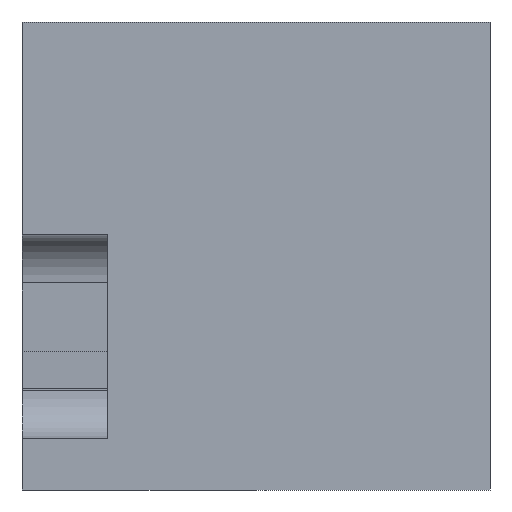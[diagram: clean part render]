
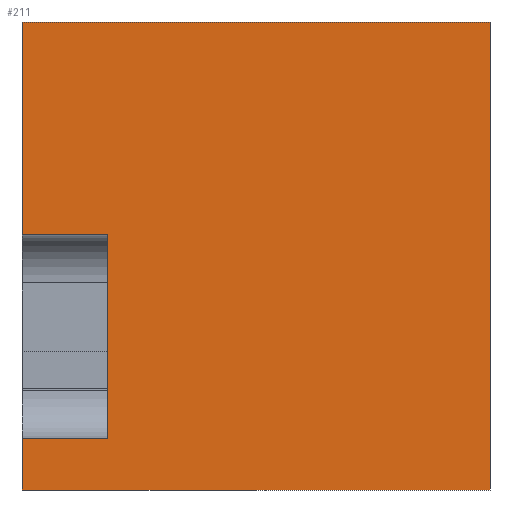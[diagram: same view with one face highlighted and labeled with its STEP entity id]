
A CAD part, left-side view. The second image highlights one B-rep face of the part: STEP entity #211.
In plain terms, the highlighted planar face has unit normal (-1, 0, 0).
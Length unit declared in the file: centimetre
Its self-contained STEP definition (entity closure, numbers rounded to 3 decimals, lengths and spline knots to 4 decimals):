
#6 = ORIENTED_EDGE ( 'NONE', *, *, #570, .F. ) ;
#7 = EDGE_CURVE ( 'NONE', #295, #682, #32, .T. ) ;
#21 = ORIENTED_EDGE ( 'NONE', *, *, #709, .F. ) ;
#32 = LINE ( 'NONE', #821, #585 ) ;
#46 = VECTOR ( 'NONE', #86, 100. ) ;
#68 = CARTESIAN_POINT ( 'NONE',  ( 0., 816.863, 544.9961 ) ) ;
#72 = LINE ( 'NONE', #322, #154 ) ;
#86 = DIRECTION ( 'NONE',  ( 0., -1., 0. ) ) ;
#95 = EDGE_LOOP ( 'NONE', ( #6, #428, #287, #348, #502, #21, #626, #361 ) ) ;
#98 = CARTESIAN_POINT ( 'NONE',  ( 0., 1000., 1000. ) ) ;
#101 = VERTEX_POINT ( 'NONE', #360 ) ;
#114 = DIRECTION ( 'NONE',  ( 0., 1., 0. ) ) ;
#142 = LINE ( 'NONE', #541, #499 ) ;
#154 = VECTOR ( 'NONE', #656, 100. ) ;
#156 = CARTESIAN_POINT ( 'NONE',  ( 0., 816.863, 1000. ) ) ;
#174 = VECTOR ( 'NONE', #282, 100. ) ;
#199 = CARTESIAN_POINT ( 'NONE',  ( 0., 1000., 1000. ) ) ;
#211 = ADVANCED_FACE ( 'NONE', ( #727 ), #780, .F. ) ;
#240 = LINE ( 'NONE', #702, #292 ) ;
#245 = AXIS2_PLACEMENT_3D ( 'NONE', #777, #377, #388 ) ;
#277 = VECTOR ( 'NONE', #426, 100. ) ;
#282 = DIRECTION ( 'NONE',  ( 0., 0., -1. ) ) ;
#287 = ORIENTED_EDGE ( 'NONE', *, *, #710, .T. ) ;
#288 = CARTESIAN_POINT ( 'NONE',  ( 0., 816.863, 110.1598 ) ) ;
#291 = VERTEX_POINT ( 'NONE', #288 ) ;
#292 = VECTOR ( 'NONE', #114, 100. ) ;
#295 = VERTEX_POINT ( 'NONE', #608 ) ;
#322 = CARTESIAN_POINT ( 'NONE',  ( 0., 0., 1000. ) ) ;
#324 = VERTEX_POINT ( 'NONE', #613 ) ;
#348 = ORIENTED_EDGE ( 'NONE', *, *, #714, .T. ) ;
#360 = CARTESIAN_POINT ( 'NONE',  ( 0., 1000., 1000. ) ) ;
#361 = ORIENTED_EDGE ( 'NONE', *, *, #7, .T. ) ;
#365 = EDGE_CURVE ( 'NONE', #291, #324, #240, .T. ) ;
#370 = CARTESIAN_POINT ( 'NONE',  ( 0., 1000., 0. ) ) ;
#377 = DIRECTION ( 'NONE',  ( 1., 0., 0. ) ) ;
#388 = DIRECTION ( 'NONE',  ( 0., 0., -1. ) ) ;
#426 = DIRECTION ( 'NONE',  ( 0., 0., 1. ) ) ;
#427 = LINE ( 'NONE', #199, #46 ) ;
#428 = ORIENTED_EDGE ( 'NONE', *, *, #365, .T. ) ;
#494 = CARTESIAN_POINT ( 'NONE',  ( 0., 1000., 1000. ) ) ;
#499 = VECTOR ( 'NONE', #813, 100. ) ;
#502 = ORIENTED_EDGE ( 'NONE', *, *, #542, .F. ) ;
#507 = VERTEX_POINT ( 'NONE', #781 ) ;
#541 = CARTESIAN_POINT ( 'NONE',  ( 0., 1000., 0. ) ) ;
#542 = EDGE_CURVE ( 'NONE', #634, #507, #72, .T. ) ;
#555 = LINE ( 'NONE', #494, #587 ) ;
#558 = CARTESIAN_POINT ( 'NONE',  ( 0., 0., 1000. ) ) ;
#570 = EDGE_CURVE ( 'NONE', #291, #682, #610, .T. ) ;
#585 = VECTOR ( 'NONE', #753, 100. ) ;
#587 = VECTOR ( 'NONE', #764, 100. ) ;
#608 = CARTESIAN_POINT ( 'NONE',  ( 0., 1000., 544.9961 ) ) ;
#610 = LINE ( 'NONE', #156, #277 ) ;
#613 = CARTESIAN_POINT ( 'NONE',  ( 0., 1000., 110.1598 ) ) ;
#624 = EDGE_CURVE ( 'NONE', #101, #295, #555, .T. ) ;
#626 = ORIENTED_EDGE ( 'NONE', *, *, #624, .T. ) ;
#634 = VERTEX_POINT ( 'NONE', #558 ) ;
#656 = DIRECTION ( 'NONE',  ( 0., 0., -1. ) ) ;
#682 = VERTEX_POINT ( 'NONE', #68 ) ;
#702 = CARTESIAN_POINT ( 'NONE',  ( 0., 816.863, 110.1598 ) ) ;
#709 = EDGE_CURVE ( 'NONE', #101, #634, #427, .T. ) ;
#710 = EDGE_CURVE ( 'NONE', #324, #822, #744, .T. ) ;
#714 = EDGE_CURVE ( 'NONE', #822, #507, #142, .T. ) ;
#727 = FACE_OUTER_BOUND ( 'NONE', #95, .T. ) ;
#744 = LINE ( 'NONE', #98, #174 ) ;
#753 = DIRECTION ( 'NONE',  ( 0., -1., 0. ) ) ;
#764 = DIRECTION ( 'NONE',  ( 0., 0., -1. ) ) ;
#777 = CARTESIAN_POINT ( 'NONE',  ( 0., 1000., 1000. ) ) ;
#780 = PLANE ( 'NONE',  #245 ) ;
#781 = CARTESIAN_POINT ( 'NONE',  ( 0., 0., 0. ) ) ;
#813 = DIRECTION ( 'NONE',  ( 0., -1., 0. ) ) ;
#821 = CARTESIAN_POINT ( 'NONE',  ( 0., 816.863, 544.9961 ) ) ;
#822 = VERTEX_POINT ( 'NONE', #370 ) ;
